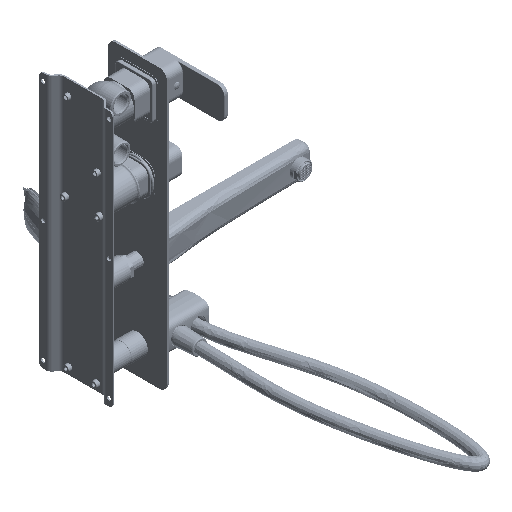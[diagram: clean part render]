
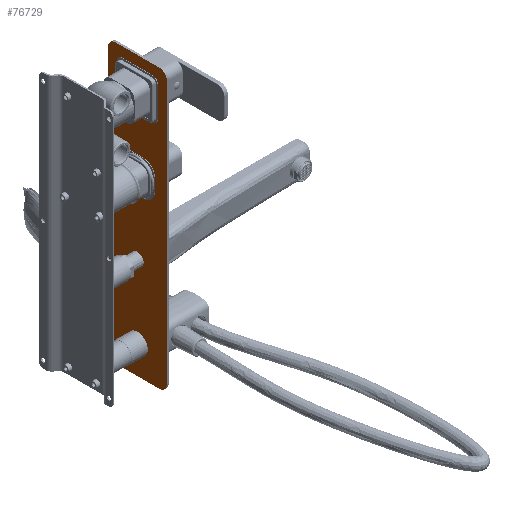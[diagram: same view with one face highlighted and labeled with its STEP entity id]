
A CAD part, isometric view. The second image highlights one B-rep face of the part: STEP entity #76729.
In plain terms, the highlighted planar face has unit normal (-1, 0, 0).
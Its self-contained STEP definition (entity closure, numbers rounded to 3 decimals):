
#74613=CARTESIAN_POINT('',(-3.,8.234,-30.));
#74614=DIRECTION('',(1.,0.,0.));
#74615=DIRECTION('',(0.,-1.,0.));
#74616=AXIS2_PLACEMENT_3D('',#74613,#74614,#74615);
#74618=DIRECTION('',(0.,1.,0.));
#74619=VECTOR('',#74618,360.);
#74620=CARTESIAN_POINT('',(-3.,8.234,-40.));
#74621=LINE('',#74620,#74619);
#74622=CARTESIAN_POINT('',(-3.,368.234,-30.));
#74623=DIRECTION('',(1.,0.,0.));
#74624=DIRECTION('',(0.,0.,-1.));
#74625=AXIS2_PLACEMENT_3D('',#74622,#74623,#74624);
#74627=DIRECTION('',(0.,0.,1.));
#74628=VECTOR('',#74627,60.);
#74629=CARTESIAN_POINT('',(-3.,378.234,-30.));
#74630=LINE('',#74629,#74628);
#74631=CARTESIAN_POINT('',(-3.,368.234,30.));
#74632=DIRECTION('',(1.,0.,0.));
#74633=DIRECTION('',(0.,1.,0.));
#74634=AXIS2_PLACEMENT_3D('',#74631,#74632,#74633);
#74636=DIRECTION('',(0.,-1.,0.));
#74637=VECTOR('',#74636,360.);
#74638=CARTESIAN_POINT('',(-3.,368.234,40.));
#74639=LINE('',#74638,#74637);
#74640=CARTESIAN_POINT('',(-3.,8.234,30.));
#74641=DIRECTION('',(1.,0.,0.));
#74642=DIRECTION('',(0.,0.,1.));
#74643=AXIS2_PLACEMENT_3D('',#74640,#74641,#74642);
#74645=DIRECTION('',(0.,0.,-1.));
#74646=VECTOR('',#74645,60.);
#74647=CARTESIAN_POINT('',(-3.,-1.766,30.));
#74648=LINE('',#74647,#74646);
#74649=CARTESIAN_POINT('',(-3.,239.734,0.));
#74650=DIRECTION('',(-1.,0.,0.));
#74651=DIRECTION('',(0.,-1.,0.));
#74652=AXIS2_PLACEMENT_3D('',#74649,#74650,#74651);
#74654=CARTESIAN_POINT('',(-3.,239.734,0.));
#74655=DIRECTION('',(-1.,0.,0.));
#74656=DIRECTION('',(0.,1.,0.));
#74657=AXIS2_PLACEMENT_3D('',#74654,#74655,#74656);
#74659=CARTESIAN_POINT('',(-3.,339.734,0.));
#74660=DIRECTION('',(-1.,0.,0.));
#74661=DIRECTION('',(0.,-1.,0.));
#74662=AXIS2_PLACEMENT_3D('',#74659,#74660,#74661);
#74664=CARTESIAN_POINT('',(-3.,339.734,0.));
#74665=DIRECTION('',(-1.,0.,0.));
#74666=DIRECTION('',(0.,1.,0.));
#74667=AXIS2_PLACEMENT_3D('',#74664,#74665,#74666);
#74669=CARTESIAN_POINT('',(-3.,19.034,-20.7));
#74670=DIRECTION('',(-1.,0.,0.));
#74671=DIRECTION('',(0.,0.,-1.));
#74672=AXIS2_PLACEMENT_3D('',#74669,#74670,#74671);
#74674=CARTESIAN_POINT('',(-3.,19.034,20.7));
#74675=DIRECTION('',(-1.,0.,0.));
#74676=DIRECTION('',(0.,-1.,0.));
#74677=AXIS2_PLACEMENT_3D('',#74674,#74675,#74676);
#74679=CARTESIAN_POINT('',(-3.,60.434,20.7));
#74680=DIRECTION('',(-1.,0.,0.));
#74681=DIRECTION('',(0.,0.,1.));
#74682=AXIS2_PLACEMENT_3D('',#74679,#74680,#74681);
#74684=CARTESIAN_POINT('',(-3.,60.434,-20.7));
#74685=DIRECTION('',(-1.,0.,0.));
#74686=DIRECTION('',(0.,1.,0.));
#74687=AXIS2_PLACEMENT_3D('',#74684,#74685,#74686);
#74689=CARTESIAN_POINT('',(-3.,131.734,-8.));
#74690=DIRECTION('',(-1.,0.,0.));
#74691=DIRECTION('',(0.,0.,-1.));
#74692=AXIS2_PLACEMENT_3D('',#74689,#74690,#74691);
#74694=CARTESIAN_POINT('',(-3.,131.734,8.));
#74695=DIRECTION('',(-1.,0.,0.));
#74696=DIRECTION('',(0.,-1.,0.));
#74697=AXIS2_PLACEMENT_3D('',#74694,#74695,#74696);
#74699=CARTESIAN_POINT('',(-3.,147.734,8.));
#74700=DIRECTION('',(-1.,0.,0.));
#74701=DIRECTION('',(0.,0.,1.));
#74702=AXIS2_PLACEMENT_3D('',#74699,#74700,#74701);
#74704=CARTESIAN_POINT('',(-3.,147.734,-8.));
#74705=DIRECTION('',(-1.,0.,0.));
#74706=DIRECTION('',(0.,1.,0.));
#74707=AXIS2_PLACEMENT_3D('',#74704,#74705,#74706);
#74826=DIRECTION('',(0.,1.,0.));
#74827=VECTOR('',#74826,41.4);
#74828=CARTESIAN_POINT('',(-3.,19.034,-28.));
#74829=LINE('',#74828,#74827);
#74838=DIRECTION('',(0.,0.,1.));
#74839=VECTOR('',#74838,41.4);
#74840=CARTESIAN_POINT('',(-3.,67.734,-20.7));
#74841=LINE('',#74840,#74839);
#74850=DIRECTION('',(0.,-1.,0.));
#74851=VECTOR('',#74850,41.4);
#74852=CARTESIAN_POINT('',(-3.,60.434,28.));
#74853=LINE('',#74852,#74851);
#74862=DIRECTION('',(0.,0.,-1.));
#74863=VECTOR('',#74862,41.4);
#74864=CARTESIAN_POINT('',(-3.,11.734,20.7));
#74865=LINE('',#74864,#74863);
#75458=DIRECTION('',(0.,1.,0.));
#75459=VECTOR('',#75458,16.);
#75460=CARTESIAN_POINT('',(-3.,131.734,-24.));
#75461=LINE('',#75460,#75459);
#75470=DIRECTION('',(0.,0.,1.));
#75471=VECTOR('',#75470,16.);
#75472=CARTESIAN_POINT('',(-3.,163.734,-8.));
#75473=LINE('',#75472,#75471);
#75482=DIRECTION('',(0.,-1.,0.));
#75483=VECTOR('',#75482,16.);
#75484=CARTESIAN_POINT('',(-3.,147.734,24.));
#75485=LINE('',#75484,#75483);
#75494=DIRECTION('',(0.,0.,-1.));
#75495=VECTOR('',#75494,16.);
#75496=CARTESIAN_POINT('',(-3.,115.734,8.));
#75497=LINE('',#75496,#75495);
#76086=CARTESIAN_POINT('',(-3.,368.234,-40.));
#76087=VERTEX_POINT('',#76086);
#76088=CARTESIAN_POINT('',(-3.,8.234,-40.));
#76089=VERTEX_POINT('',#76088);
#76162=CARTESIAN_POINT('',(-3.,-1.766,-30.));
#76163=VERTEX_POINT('',#76162);
#76164=CARTESIAN_POINT('',(-3.,378.234,-30.));
#76165=VERTEX_POINT('',#76164);
#76166=CARTESIAN_POINT('',(-3.,378.234,30.));
#76167=VERTEX_POINT('',#76166);
#76168=CARTESIAN_POINT('',(-3.,368.234,40.));
#76169=VERTEX_POINT('',#76168);
#76170=CARTESIAN_POINT('',(-3.,8.234,40.));
#76171=VERTEX_POINT('',#76170);
#76172=CARTESIAN_POINT('',(-3.,-1.766,30.));
#76173=VERTEX_POINT('',#76172);
#76174=CARTESIAN_POINT('',(-3.,232.234,0.));
#76175=CARTESIAN_POINT('',(-3.,247.234,0.));
#76176=VERTEX_POINT('',#76174);
#76177=VERTEX_POINT('',#76175);
#76178=CARTESIAN_POINT('',(-3.,327.734,0.));
#76179=CARTESIAN_POINT('',(-3.,351.734,0.));
#76180=VERTEX_POINT('',#76178);
#76181=VERTEX_POINT('',#76179);
#76182=CARTESIAN_POINT('',(-3.,19.034,-28.));
#76183=CARTESIAN_POINT('',(-3.,11.734,-20.7));
#76184=VERTEX_POINT('',#76182);
#76185=VERTEX_POINT('',#76183);
#76186=CARTESIAN_POINT('',(-3.,11.734,20.7));
#76187=VERTEX_POINT('',#76186);
#76188=CARTESIAN_POINT('',(-3.,19.034,28.));
#76189=VERTEX_POINT('',#76188);
#76190=CARTESIAN_POINT('',(-3.,60.434,28.));
#76191=VERTEX_POINT('',#76190);
#76192=CARTESIAN_POINT('',(-3.,67.734,20.7));
#76193=VERTEX_POINT('',#76192);
#76194=CARTESIAN_POINT('',(-3.,67.734,-20.7));
#76195=VERTEX_POINT('',#76194);
#76196=CARTESIAN_POINT('',(-3.,60.434,-28.));
#76197=VERTEX_POINT('',#76196);
#76198=CARTESIAN_POINT('',(-3.,131.734,-24.));
#76199=CARTESIAN_POINT('',(-3.,115.734,-8.));
#76200=VERTEX_POINT('',#76198);
#76201=VERTEX_POINT('',#76199);
#76202=CARTESIAN_POINT('',(-3.,115.734,8.));
#76203=VERTEX_POINT('',#76202);
#76204=CARTESIAN_POINT('',(-3.,131.734,24.));
#76205=VERTEX_POINT('',#76204);
#76206=CARTESIAN_POINT('',(-3.,147.734,24.));
#76207=VERTEX_POINT('',#76206);
#76208=CARTESIAN_POINT('',(-3.,163.734,8.));
#76209=VERTEX_POINT('',#76208);
#76210=CARTESIAN_POINT('',(-3.,163.734,-8.));
#76211=VERTEX_POINT('',#76210);
#76212=CARTESIAN_POINT('',(-3.,147.734,-24.));
#76213=VERTEX_POINT('',#76212);
#76660=CARTESIAN_POINT('',(-3.,425.734,50.));
#76661=DIRECTION('',(-1.,0.,0.));
#76662=DIRECTION('',(0.,1.,0.));
#76663=AXIS2_PLACEMENT_3D('',#76660,#76661,#76662);
#76664=PLANE('',#76663);
#76665=ORIENTED_EDGE('',*,*,#76653,.T.);
#76666=ORIENTED_EDGE('',*,*,#76539,.T.);
#76668=ORIENTED_EDGE('',*,*,#76667,.T.);
#76670=ORIENTED_EDGE('',*,*,#76669,.T.);
#76672=ORIENTED_EDGE('',*,*,#76671,.T.);
#76674=ORIENTED_EDGE('',*,*,#76673,.T.);
#76676=ORIENTED_EDGE('',*,*,#76675,.T.);
#76678=ORIENTED_EDGE('',*,*,#76677,.T.);
#76679=EDGE_LOOP('',(#76665,#76666,#76668,#76670,#76672,#76674,#76676,#76678));
#76680=FACE_OUTER_BOUND('',#76679,.F.);
#76682=ORIENTED_EDGE('',*,*,#76681,.T.);
#76684=ORIENTED_EDGE('',*,*,#76683,.T.);
#76685=EDGE_LOOP('',(#76682,#76684));
#76686=FACE_BOUND('',#76685,.F.);
#76688=ORIENTED_EDGE('',*,*,#76687,.T.);
#76690=ORIENTED_EDGE('',*,*,#76689,.T.);
#76691=EDGE_LOOP('',(#76688,#76690));
#76692=FACE_BOUND('',#76691,.F.);
#76694=ORIENTED_EDGE('',*,*,#76693,.T.);
#76696=ORIENTED_EDGE('',*,*,#76695,.F.);
#76698=ORIENTED_EDGE('',*,*,#76697,.T.);
#76700=ORIENTED_EDGE('',*,*,#76699,.F.);
#76702=ORIENTED_EDGE('',*,*,#76701,.T.);
#76704=ORIENTED_EDGE('',*,*,#76703,.F.);
#76706=ORIENTED_EDGE('',*,*,#76705,.T.);
#76708=ORIENTED_EDGE('',*,*,#76707,.F.);
#76709=EDGE_LOOP('',(#76694,#76696,#76698,#76700,#76702,#76704,#76706,#76708));
#76710=FACE_BOUND('',#76709,.F.);
#76712=ORIENTED_EDGE('',*,*,#76711,.T.);
#76714=ORIENTED_EDGE('',*,*,#76713,.F.);
#76716=ORIENTED_EDGE('',*,*,#76715,.T.);
#76718=ORIENTED_EDGE('',*,*,#76717,.F.);
#76720=ORIENTED_EDGE('',*,*,#76719,.T.);
#76722=ORIENTED_EDGE('',*,*,#76721,.F.);
#76724=ORIENTED_EDGE('',*,*,#76723,.T.);
#76726=ORIENTED_EDGE('',*,*,#76725,.F.);
#76727=EDGE_LOOP('',(#76712,#76714,#76716,#76718,#76720,#76722,#76724,#76726));
#76728=FACE_BOUND('',#76727,.F.);
#76729=ADVANCED_FACE('',(#76680,#76686,#76692,#76710,#76728),#76664,.T.);
#74617=CIRCLE('',#74616,10.);
#74626=CIRCLE('',#74625,10.);
#74635=CIRCLE('',#74634,10.);
#74644=CIRCLE('',#74643,10.);
#74653=CIRCLE('',#74652,7.5);
#74658=CIRCLE('',#74657,7.5);
#74663=CIRCLE('',#74662,12.);
#74668=CIRCLE('',#74667,12.);
#74673=CIRCLE('',#74672,7.3);
#74678=CIRCLE('',#74677,7.3);
#74683=CIRCLE('',#74682,7.3);
#74688=CIRCLE('',#74687,7.3);
#74693=CIRCLE('',#74692,16.);
#74698=CIRCLE('',#74697,16.);
#74703=CIRCLE('',#74702,16.);
#74708=CIRCLE('',#74707,16.);
#76539=EDGE_CURVE('',#76089,#76087,#74621,.T.);
#76653=EDGE_CURVE('',#76163,#76089,#74617,.T.);
#76667=EDGE_CURVE('',#76087,#76165,#74626,.T.);
#76669=EDGE_CURVE('',#76165,#76167,#74630,.T.);
#76671=EDGE_CURVE('',#76167,#76169,#74635,.T.);
#76673=EDGE_CURVE('',#76169,#76171,#74639,.T.);
#76675=EDGE_CURVE('',#76171,#76173,#74644,.T.);
#76677=EDGE_CURVE('',#76173,#76163,#74648,.T.);
#76681=EDGE_CURVE('',#76176,#76177,#74653,.T.);
#76683=EDGE_CURVE('',#76177,#76176,#74658,.T.);
#76687=EDGE_CURVE('',#76180,#76181,#74663,.T.);
#76689=EDGE_CURVE('',#76181,#76180,#74668,.T.);
#76693=EDGE_CURVE('',#76184,#76185,#74673,.T.);
#76695=EDGE_CURVE('',#76187,#76185,#74865,.T.);
#76697=EDGE_CURVE('',#76187,#76189,#74678,.T.);
#76699=EDGE_CURVE('',#76191,#76189,#74853,.T.);
#76701=EDGE_CURVE('',#76191,#76193,#74683,.T.);
#76703=EDGE_CURVE('',#76195,#76193,#74841,.T.);
#76705=EDGE_CURVE('',#76195,#76197,#74688,.T.);
#76707=EDGE_CURVE('',#76184,#76197,#74829,.T.);
#76711=EDGE_CURVE('',#76200,#76201,#74693,.T.);
#76713=EDGE_CURVE('',#76203,#76201,#75497,.T.);
#76715=EDGE_CURVE('',#76203,#76205,#74698,.T.);
#76717=EDGE_CURVE('',#76207,#76205,#75485,.T.);
#76719=EDGE_CURVE('',#76207,#76209,#74703,.T.);
#76721=EDGE_CURVE('',#76211,#76209,#75473,.T.);
#76723=EDGE_CURVE('',#76211,#76213,#74708,.T.);
#76725=EDGE_CURVE('',#76200,#76213,#75461,.T.);
